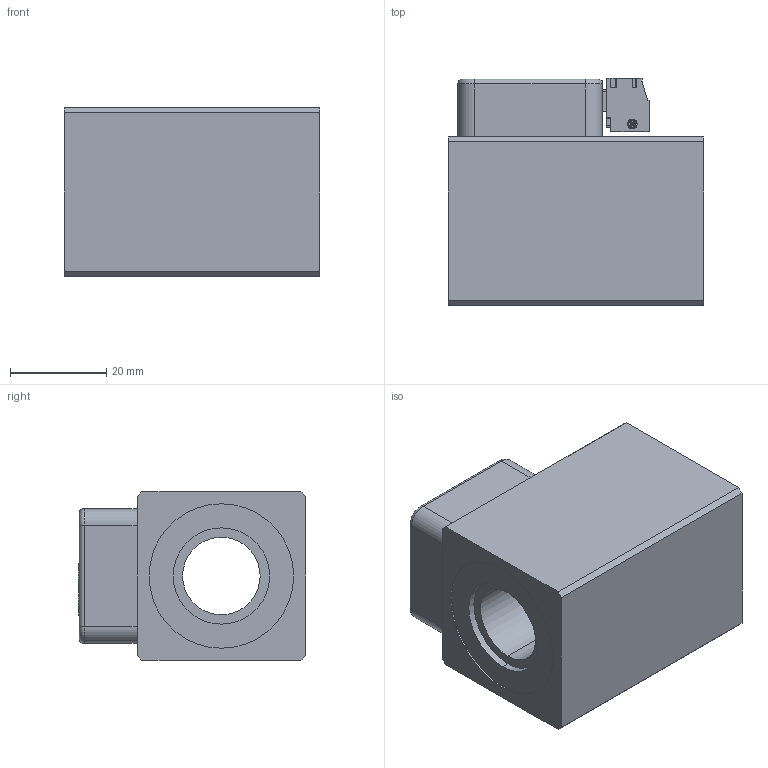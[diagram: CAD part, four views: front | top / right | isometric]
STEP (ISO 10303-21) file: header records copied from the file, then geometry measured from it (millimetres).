
FILE_DESCRIPTION (( 'STEP AP214' ), '1' );
FILE_NAME ('MXS35_16x50-M222b.STEP', '2015-07-07T05:42:49', ( '' ), ( '' ), 'SwSTEP 2.0', 'SolidWorks 2014', '' );
FILE_SCHEMA (( 'AUTOMOTIVE_DESIGN' ));
Length unit declared in the file: millimetre
Products named in the file (2): MXS35_16x50-M222b
Bounding box: 53 x 47.2 x 35 mm (x, y, z)
Volume: 64087 mm3; surface area: 14611.3 mm2
Topology: 1 solids, 5 shells, 459 faces, 1225 edges, 781 vertices
Faces by surface type: plane 219, cylinder 194, bspline 24, cone 12, torus 10
Entity records: 20147 total; most frequent: CARTESIAN_POINT 4034, ORIENTED_EDGE 2434, DIRECTION 2179, EDGE_CURVE 1217, VERTEX_POINT 781, VECTOR 767, LINE 767, AXIS2_PLACEMENT_3D 706
